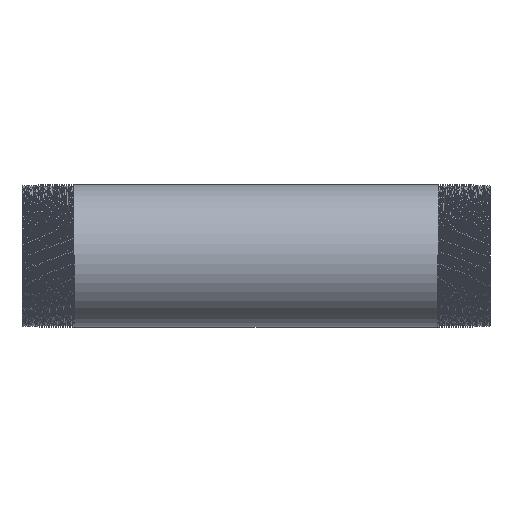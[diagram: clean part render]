
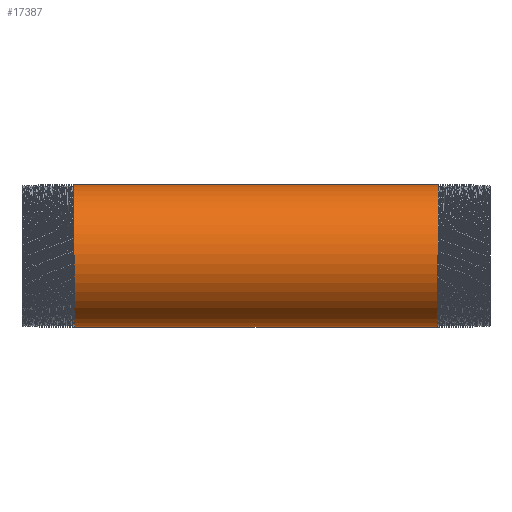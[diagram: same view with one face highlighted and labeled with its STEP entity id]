
A CAD part, front view. The second image highlights one B-rep face of the part: STEP entity #17387.
In plain terms, the highlighted cylindrical face has radius 38.05 mm (diameter 76.1 mm), a partial arc.
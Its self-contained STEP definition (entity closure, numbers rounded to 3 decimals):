
#302 =( BOUNDED_CURVE ( )  B_SPLINE_CURVE ( 2, ( #19051, #5188, #19152, #11374, #3670, #14296, #15798, #613, #17623 ),
 .UNSPECIFIED., .F., .F. ) 
 B_SPLINE_CURVE_WITH_KNOTS ( ( 3, 2, 2, 2, 3 ),
 ( 0., 0.005, 0.011, 0.016, 0.022 ),
 .UNSPECIFIED. ) 
 CURVE ( )  GEOMETRIC_REPRESENTATION_ITEM ( )  RATIONAL_B_SPLINE_CURVE ( ( 1., 0.924, 1., 0.924, 1., 0.924, 1., 0.924, 1. ) ) 
 REPRESENTATION_ITEM ( '' )  );
#418 = CARTESIAN_POINT ( 'NONE',  ( 97.531, 0., 38.05 ) ) ;
#613 = CARTESIAN_POINT ( 'NONE',  ( 97.453, -15.761, 38.05 ) ) ;
#1090 = CARTESIAN_POINT ( 'NONE',  ( -97.531, 0., 38.05 ) ) ;
#1245 = CARTESIAN_POINT ( 'NONE',  ( -97.141, -38.05, -15.761 ) ) ;
#1418 = CARTESIAN_POINT ( 'NONE',  ( -149.494, 0., 38.05 ) ) ;
#1837 = ORIENTED_EDGE ( 'NONE', *, *, #13217, .F. ) ;
#2966 = CARTESIAN_POINT ( 'NONE',  ( -97.531, 0., 38.05 ) ) ;
#2971 = VECTOR ( 'NONE', #7622, 1000. ) ;
#3642 = ORIENTED_EDGE ( 'NONE', *, *, #14301, .T. ) ;
#3670 = CARTESIAN_POINT ( 'NONE',  ( 97.219, -38.05, 0. ) ) ;
#4567 = LINE ( 'NONE', #1418, #2971 ) ;
#4989 =( BOUNDED_CURVE ( )  B_SPLINE_CURVE ( 2, ( #8973, #10679, #10778, #1245, #16822, #10390, #11917, #16918, #2966 ),
 .UNSPECIFIED., .F., .F. ) 
 B_SPLINE_CURVE_WITH_KNOTS ( ( 3, 2, 2, 2, 3 ),
 ( 0., 0.005, 0.011, 0.016, 0.022 ),
 .UNSPECIFIED. ) 
 CURVE ( )  GEOMETRIC_REPRESENTATION_ITEM ( )  RATIONAL_B_SPLINE_CURVE ( ( 1., 0.924, 1., 0.924, 1., 0.924, 1., 0.924, 1. ) ) 
 REPRESENTATION_ITEM ( '' )  );
#5138 = VECTOR ( 'NONE', #6927, 1000. ) ;
#5188 = CARTESIAN_POINT ( 'NONE',  ( 96.984, -15.761, -38.05 ) ) ;
#5364 = VERTEX_POINT ( 'NONE', #1090 ) ;
#5396 = EDGE_LOOP ( 'NONE', ( #1837, #3642, #14273, #15921 ) ) ;
#6887 = AXIS2_PLACEMENT_3D ( 'NONE', #12071, #16489, #17914 ) ;
#6927 = DIRECTION ( 'NONE',  ( -1., 0., 0. ) ) ;
#7622 = DIRECTION ( 'NONE',  ( -1., 0., 0. ) ) ;
#8402 = VERTEX_POINT ( 'NONE', #418 ) ;
#8454 = CARTESIAN_POINT ( 'NONE',  ( -96.906, 0., -38.05 ) ) ;
#8973 = CARTESIAN_POINT ( 'NONE',  ( -96.906, 0., -38.05 ) ) ;
#9965 = CARTESIAN_POINT ( 'NONE',  ( -149.494, 0., -38.05 ) ) ;
#10390 = CARTESIAN_POINT ( 'NONE',  ( -97.297, -38.05, 15.761 ) ) ;
#10679 = CARTESIAN_POINT ( 'NONE',  ( -96.984, -15.761, -38.05 ) ) ;
#10778 = CARTESIAN_POINT ( 'NONE',  ( -97.063, -26.905, -26.905 ) ) ;
#11374 = CARTESIAN_POINT ( 'NONE',  ( 97.141, -38.05, -15.761 ) ) ;
#11917 = CARTESIAN_POINT ( 'NONE',  ( -97.375, -26.905, 26.905 ) ) ;
#12071 = CARTESIAN_POINT ( 'NONE',  ( -149.494, 0., 0. ) ) ;
#13217 = EDGE_CURVE ( 'NONE', #14602, #14173, #16109, .T. ) ;
#13470 = CYLINDRICAL_SURFACE ( 'NONE', #6887, 38.05 ) ;
#14173 = VERTEX_POINT ( 'NONE', #8454 ) ;
#14273 = ORIENTED_EDGE ( 'NONE', *, *, #18371, .T. ) ;
#14296 = CARTESIAN_POINT ( 'NONE',  ( 97.297, -38.05, 15.761 ) ) ;
#14301 = EDGE_CURVE ( 'NONE', #14602, #8402, #302, .T. ) ;
#14602 = VERTEX_POINT ( 'NONE', #15344 ) ;
#15344 = CARTESIAN_POINT ( 'NONE',  ( 96.906, 0., -38.05 ) ) ;
#15798 = CARTESIAN_POINT ( 'NONE',  ( 97.375, -26.905, 26.905 ) ) ;
#15921 = ORIENTED_EDGE ( 'NONE', *, *, #16767, .F. ) ;
#16109 = LINE ( 'NONE', #9965, #5138 ) ;
#16489 = DIRECTION ( 'NONE',  ( -1., 0., 0. ) ) ;
#16767 = EDGE_CURVE ( 'NONE', #14173, #5364, #4989, .T. ) ;
#16822 = CARTESIAN_POINT ( 'NONE',  ( -97.219, -38.05, 0. ) ) ;
#16918 = CARTESIAN_POINT ( 'NONE',  ( -97.453, -15.761, 38.05 ) ) ;
#17041 = FACE_OUTER_BOUND ( 'NONE', #5396, .T. ) ;
#17387 = ADVANCED_FACE ( 'NONE', ( #17041 ), #13470, .T. ) ;
#17623 = CARTESIAN_POINT ( 'NONE',  ( 97.531, 0., 38.05 ) ) ;
#17914 = DIRECTION ( 'NONE',  ( 0., 0., 1. ) ) ;
#18371 = EDGE_CURVE ( 'NONE', #8402, #5364, #4567, .T. ) ;
#19051 = CARTESIAN_POINT ( 'NONE',  ( 96.906, 0., -38.05 ) ) ;
#19152 = CARTESIAN_POINT ( 'NONE',  ( 97.063, -26.905, -26.905 ) ) ;
